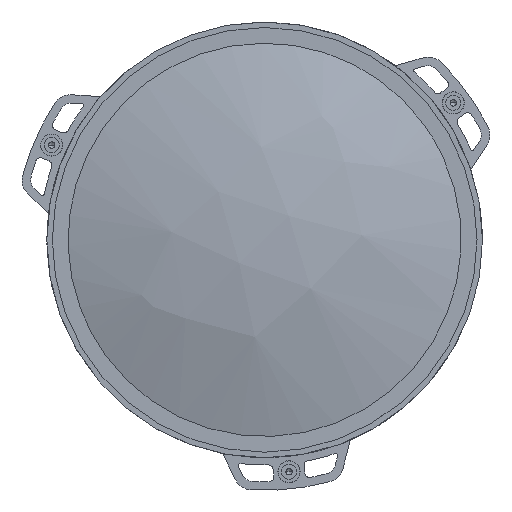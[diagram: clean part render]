
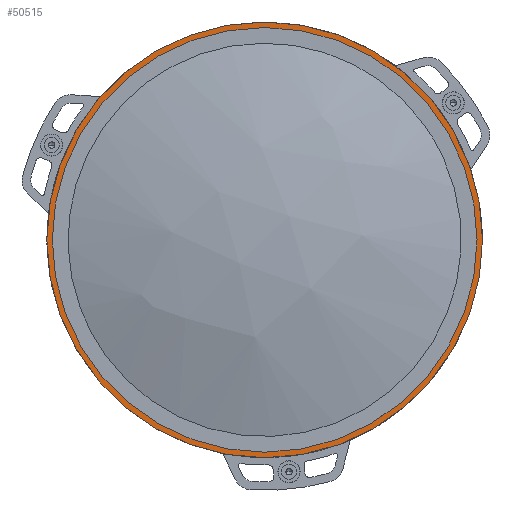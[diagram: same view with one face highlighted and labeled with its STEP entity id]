
A CAD part, top view. The second image highlights one B-rep face of the part: STEP entity #50515.
In plain terms, the highlighted planar face has unit normal (0, 0, 1).
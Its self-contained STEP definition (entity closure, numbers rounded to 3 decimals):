
#1998 = DIRECTION ( 'NONE',  ( 1., 0., 0. ) ) ;
#3667 = DIRECTION ( 'NONE',  ( 0., -1., 0. ) ) ;
#7701 = DIRECTION ( 'NONE',  ( 1., 0., 0. ) ) ;
#8490 = CARTESIAN_POINT ( 'NONE',  ( 345.75, 0., 15. ) ) ;
#13372 = EDGE_CURVE ( 'NONE', #49253, #17603, #45409, .T. ) ;
#13380 = CARTESIAN_POINT ( 'NONE',  ( -345.75, 0., 15. ) ) ;
#17343 = AXIS2_PLACEMENT_3D ( 'NONE', #60140, #39019, #3667 ) ;
#17603 = VERTEX_POINT ( 'NONE', #8490 ) ;
#19095 = DIRECTION ( 'NONE',  ( 0., 0., 1. ) ) ;
#19523 = EDGE_LOOP ( 'NONE', ( #56111, #43018 ) ) ;
#28519 = DIRECTION ( 'NONE',  ( 0., 0., 1. ) ) ;
#33292 = EDGE_CURVE ( 'NONE', #17603, #49253, #57637, .T. ) ;
#39019 = DIRECTION ( 'NONE',  ( 0., 0., -1. ) ) ;
#39347 = PLANE ( 'NONE',  #17343 ) ;
#42955 = CARTESIAN_POINT ( 'NONE',  ( 0., 0., 15. ) ) ;
#43018 = ORIENTED_EDGE ( 'NONE', *, *, #33292, .T. ) ;
#43374 = CARTESIAN_POINT ( 'NONE',  ( 0., 0., 15. ) ) ;
#45409 = CIRCLE ( 'NONE', #63303, 345.75 ) ;
#49190 = AXIS2_PLACEMENT_3D ( 'NONE', #42955, #19095, #1998 ) ;
#49253 = VERTEX_POINT ( 'NONE', #13380 ) ;
#50515 = ADVANCED_FACE ( 'NONE', ( #64099 ), #39347, .F. ) ;
#56111 = ORIENTED_EDGE ( 'NONE', *, *, #13372, .T. ) ;
#57637 = CIRCLE ( 'NONE', #49190, 345.75 ) ;
#60140 = CARTESIAN_POINT ( 'NONE',  ( 0., 0., 15. ) ) ;
#63303 = AXIS2_PLACEMENT_3D ( 'NONE', #43374, #28519, #7701 ) ;
#64099 = FACE_OUTER_BOUND ( 'NONE', #19523, .T. ) ;
